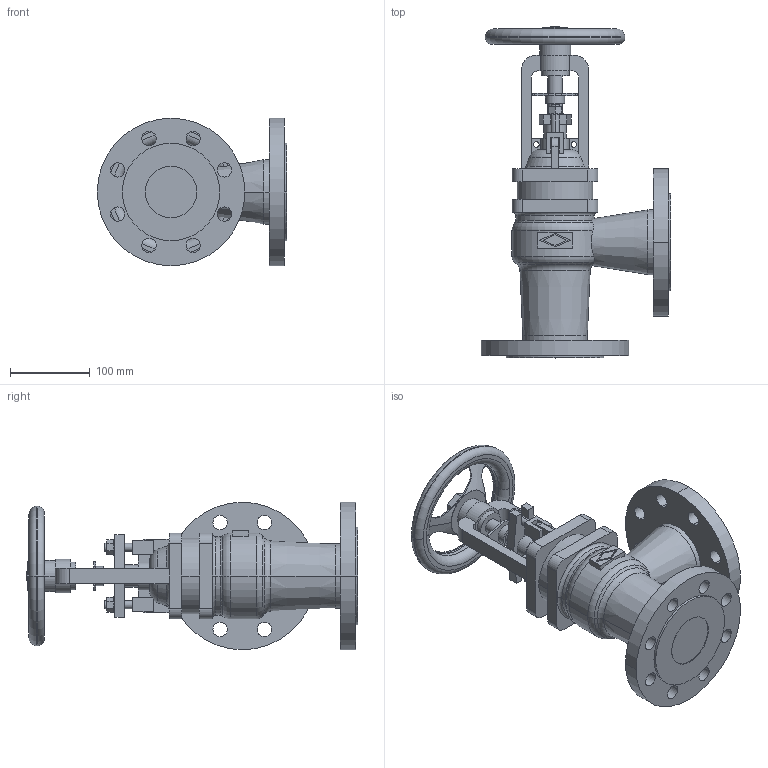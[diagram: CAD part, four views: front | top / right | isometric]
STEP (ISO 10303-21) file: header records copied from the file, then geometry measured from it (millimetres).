
FILE_DESCRIPTION(('OneSpaceDesigner STEP Export'),'2;1');
FILE_NAME('c000004451.stp','2010-05-17T 9:55:25',(''),(''),'OneSpace Designer STEP processor for AP214 (Solid Model)','OneSpace Modeling 15.50B 03-Nov-2007 (C) CoCreate Software GmbH','');
FILE_SCHEMA(('AUTOMOTIVE_DESIGN { 1 0 10303 214 1 1 1 1 }'));
Length unit declared in the file: millimetre
Products named in the file (1): 1
Bounding box: 237.5 x 416.1 x 185 mm (x, y, z)
Volume: 3474499 mm3; surface area: 342181.6 mm2
Topology: 1 solids, 1 shells, 316 faces, 853 edges, 560 vertices
Faces by surface type: plane 139, cylinder 129, torus 32, cone 16
Entity records: 12829 total; most frequent: CARTESIAN_POINT 2708, ORIENTED_EDGE 1706, DIRECTION 1389, EDGE_CURVE 853, VERTEX_POINT 560, AXIS2_PLACEMENT_3D 484, VECTOR 421, LINE 421
